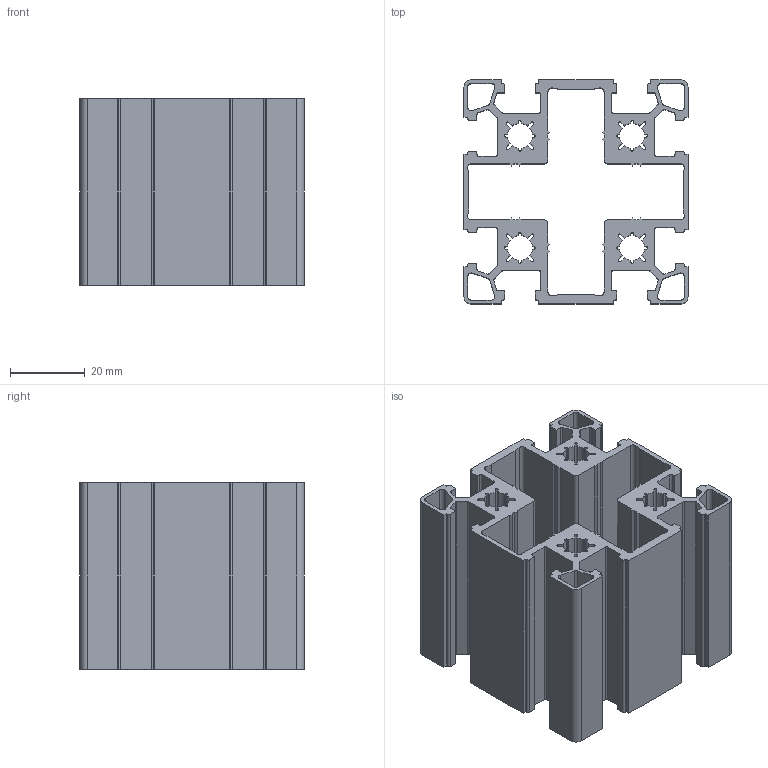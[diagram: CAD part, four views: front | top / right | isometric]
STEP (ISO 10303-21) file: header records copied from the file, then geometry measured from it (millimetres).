
FILE_DESCRIPTION (( 'STEP AP203' ), '1' );
FILE_NAME ('60X60.STEP', '2018-04-06T08:46:30', ( '' ), ( '' ), 'SwSTEP 2.0', 'SolidWorks 2014', '' );
FILE_SCHEMA (( 'CONFIG_CONTROL_DESIGN' ));
Length unit declared in the file: millimetre
Products named in the file (1): 60X60
Bounding box: 60 x 60 x 50 mm (x, y, z)
Volume: 51517.7 mm3; surface area: 47513.4 mm2
Topology: 1 solids, 1 shells, 436 faces, 1302 edges, 868 vertices
Faces by surface type: plane 258, cylinder 178
Entity records: 14815 total; most frequent: CARTESIAN_POINT 2607, ORIENTED_EDGE 2604, DIRECTION 2532, EDGE_CURVE 1302, VECTOR 946, LINE 946, VERTEX_POINT 868, AXIS2_PLACEMENT_3D 793
